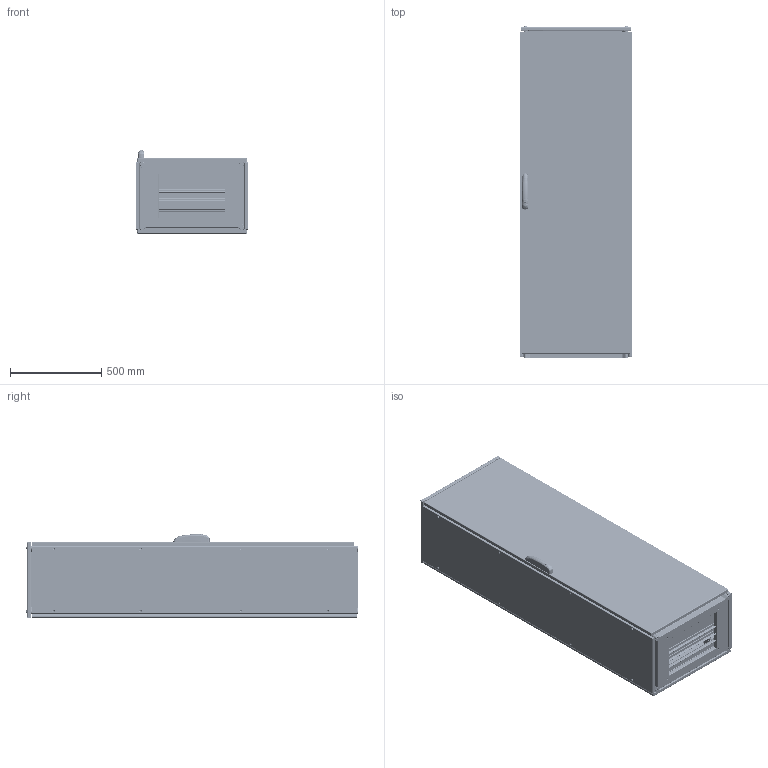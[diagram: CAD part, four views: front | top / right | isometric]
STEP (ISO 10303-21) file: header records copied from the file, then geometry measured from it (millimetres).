
FILE_DESCRIPTION (( 'STEP AP203' ), '1' );
FILE_NAME ('ENUX061804PR.STEP', '2025-05-28T14:52:43', ( '' ), ( '' ), 'SwSTEP 2.0', 'SolidWorks 2022', '' );
FILE_SCHEMA (( 'CONFIG_CONTROL_DESIGN' ));
Products named in the file (12): AR_ENUX_Tetto_0600x0400; AR_ENUX_Vite_tetto; AR_ENUX_Struttura_0600x1800x0400; AR_ENUX_Fianco_0400x1800_SX; AR_ENUX_Tegolino_0600x0050; AR_ENUX_Retro_singolo_0600x1800; ENUX061804PR; AR_ENUX_Porta_singola_2.0_0600x1800_ANT; AR_ENUX_Tegolino_0600x0100; AR_ENUX_nuova_maniglia_mesan; AR_ENUX_Fianco_0400x1800_DX; AR_ENUX_montaggio_porta_singlola_2.0_0600x1800_ANT_DX
Assembly tree (15 placements, depth 3):
  ENUX061804PR
    AR_ENUX_Struttura_0600x1800x0400
    AR_ENUX_Retro_singolo_0600x1800
    AR_ENUX_montaggio_porta_singlola_2.0_0600x1800_ANT_DX
      AR_ENUX_Porta_singola_2.0_0600x1800_ANT
      AR_ENUX_nuova_maniglia_mesan
    AR_ENUX_Fianco_0400x1800_SX
    AR_ENUX_Fianco_0400x1800_DX
    AR_ENUX_Tetto_0600x0400
    AR_ENUX_Vite_tetto  x4
    AR_ENUX_Tegolino_0600x0100
    AR_ENUX_Tegolino_0600x0050  x2
Bounding box: 612 x 1815.1 x 457 mm (x, y, z)
Volume: 9471439.7 mm3; surface area: 13554716.2 mm2
Topology: 14 solids, 14 shells, 7716 faces, 21750 edges, 13958 vertices
Faces by surface type: plane 4017, cylinder 2799, bspline 365, torus 271, cone 196, sphere 68
Entity records: 289676 total; most frequent: CARTESIAN_POINT 84053, ORIENTED_EDGE 42662, DIRECTION 40754, EDGE_CURVE 21331, VECTOR 14350, LINE 14350, VERTEX_POINT 13800, AXIS2_PLACEMENT_3D 13202
